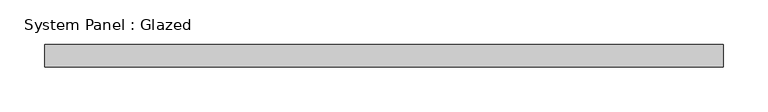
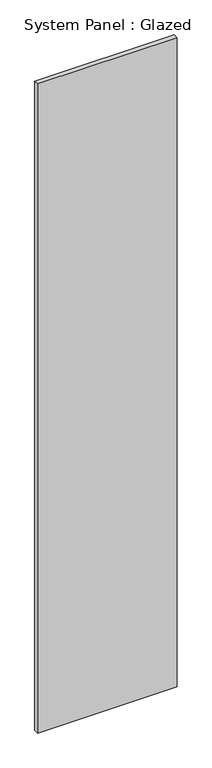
"""IFC4 building model written with IfcOpenShell, lengths in millimetres: plate geometry, System Panel : Glazed."""

from ifc_helpers import new_model, si_unit, origin, origin_with_axes, place, context, project, spatial, polyline, outline, extrude, source, transform, mapped, element, save


def system_panel_glazed_7e289b92(model_context):
    return source(origin(), model_context, "Body", "SweptSolid", [
        extrude(outline(polyline([(381.0, 19.05), (-381.0, 19.05), (-381.0, 44.45), (381.0, 44.45), (381.0, 19.05)])), origin_with_axes(), (0.0, 0.0, 1.0), 3746.5),
    ])


if __name__ == "__main__":
    model = new_model("IFC4")
    model_context = context("Model", 3, world=origin())
    ifc_project = project(units=[si_unit("LENGTHUNIT", "METRE", prefix="MILLI")], contexts=[model_context])
    site = spatial("IfcSite", under=ifc_project)
    building = spatial("IfcBuilding", under=site)
    placement = place(None, origin())
    system_panel_glazed_shape = system_panel_glazed_7e289b92(model_context)
    element("IfcPlate", 1, ObjectType="System Panel : Glazed", at=placement, inside=building, context=model_context, shape_type="MappedRepresentation", body=[
        mapped(system_panel_glazed_shape, transform((0.0, 0.0, 0.0), x_axis=(1.0, 0.0, 0.0), y_axis=(0.0, 1.0, 0.0), z_axis=(0.0, 0.0, 1.0))),
    ])
    save(model, "model.ifc")
